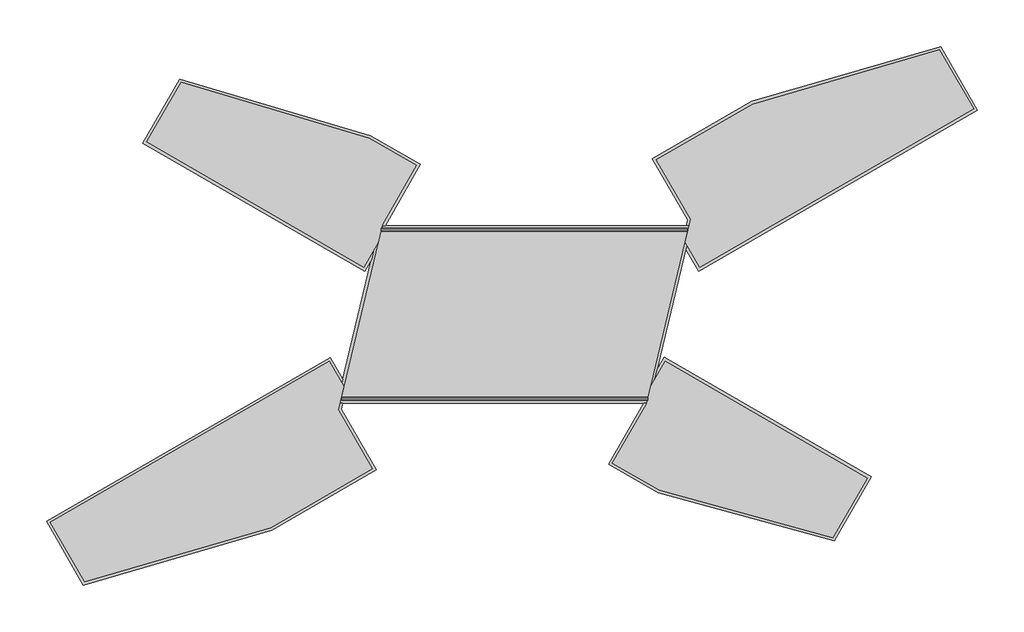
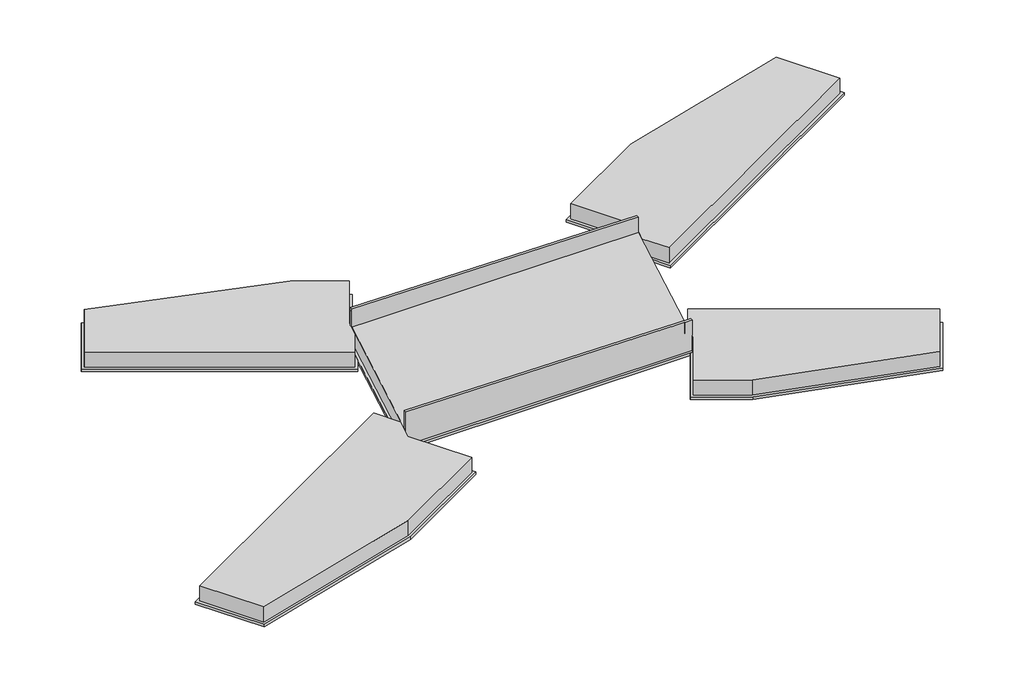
# One storey, incomplete: 12 proxies.
"""IFC4 building model written with IfcOpenShell, lengths in millimetres."""

from ifc_helpers import new_model, si_unit, frame, origin, origin_with_axes, place, context, project, spatial, polyline, outline, extrude, transform, mapped, element, save
from components import radier_radier_ac710929

model = new_model("IFC4")

# Units and contexts
model_context = context("Model", 3, world=origin())
ifc_project = project(units=[si_unit("LENGTHUNIT", "METRE", prefix="MILLI")], contexts=[model_context])

# Site, building, storey
site = spatial("IfcSite", under=ifc_project)
building = spatial("IfcBuilding", under=site)
storey = spatial("IfcBuildingStorey", under=building, Name="0- Fond de fouille", Elevation=0.0)

# Proxies
placement = place(None, origin())
element("IfcBuildingElementProxy", 1, Name="Béton de propreté S1 : béton de propreté S1", ObjectType="Béton de propreté S1 : béton de propreté S1", at=placement, inside=storey, context=model_context, shape_type="SweptSolid", body=[
    extrude(outline(polyline([(8289.3260852, 7434.0039891), (14893.3399844, 9353.2312488), (16173.3921672, 7136.0890223), (6430.5769223, 1511.1400355), (5991.5771135, 2271.5192034), (6025.366364, 2412.9956109), (5967.1847125, 2513.770406), (6107.1957499, 3100.0), (6004.3832383, 3100.0), (6051.3062222, 3296.4676664), (4819.2060896, 5430.5535014), (8289.3260852, 7434.0039891)])), origin_with_axes(), (0.0, 0.0, 1.0), 100.0),
])
element("IfcBuildingElementProxy", 2, Name="Béton de propreté S2 : béton de propreté S2", ObjectType="Béton de propreté S2 : béton de propreté S2", at=placement, inside=storey, context=model_context, shape_type="SweptSolid", body=[
    extrude(outline(polyline([(12461.9647699, -5682.7647927), (11173.4481291, -7914.5680679), (5029.7839823, -6241.5727011), (3284.8955633, -5234.1730843), (4517.0460687, -3100.0), (4626.4304641, -3100.0), (4767.2385783, -2510.4330263), (4907.5194147, -2267.4565523), (4988.9881286, -1926.3450805), (5230.6307882, -1507.8026558), (12461.9647699, -5682.7647927)])), origin_with_axes(), (0.0, 0.0, 1.0), 100.0),
])
element("IfcBuildingElementProxy", 3, Name="Béton de propreté S3 : béton de propreté S3", ObjectType="Béton de propreté S3 : béton de propreté S3", at=placement, inside=storey, context=model_context, shape_type="SweptSolid", body=[
    extrude(outline(polyline([(-16346.5977716, -7236.0881154), (-6430.5769223, -1511.1400355), (-5991.5771135, -2271.5192034), (-6025.366364, -2412.9956109), (-5967.1847125, -2513.770406), (-6107.1957499, -3100.0), (-6004.3832383, -3100.0), (-6056.7283401, -3319.1702047), (-4833.1031305, -5438.5768648), (-8480.8224212, -7544.5631134), (-15057.9552775, -9468.1093774), (-16346.5977716, -7236.0881154)])), origin_with_axes(), (0.0, 0.0, 1.0), 100.0),
])
element("IfcBuildingElementProxy", 4, Name="Béton de propreté S4 : béton de propreté S4", ObjectType="Béton de propreté S4 : béton de propreté S4", at=placement, inside=storey, context=model_context, shape_type="SweptSolid", body=[
    extrude(outline(polyline([(-4520.9449128, 3100.0), (-4626.4304641, 3100.0), (-4767.2385783, 2510.4330263), (-4907.5194147, 2267.4565523), (-4988.9881286, 1926.3450805), (-5230.6307882, 1507.8026558), (-12981.581583, 5982.762072), (-11692.1708843, 8216.1139195), (-5030.1198411, 6241.7666069), (-3287.819714, 5235.8613231), (-4520.9449128, 3100.0)])), origin_with_axes(), (0.0, 0.0, 1.0), 100.0),
])
element("IfcBuildingElementProxy", 5, Name="Béton de propreté radier : béton de propreté radier", ObjectType="Béton de propreté radier : béton de propreté radier", at=placement, inside=storey, context=model_context, shape_type="SweptSolid", body=[
    extrude(outline(polyline([(6107.1957499, 3100.0), (5967.1847125, 2513.770406), (6025.366364, 2412.9956109), (4907.5194147, -2267.4565523), (4767.2385783, -2510.4330263), (4626.4304641, -3100.0), (-6107.1957499, -3100.0), (-5967.1847125, -2513.770406), (-6025.366364, -2412.9956109), (-4907.5194147, 2267.4565523), (-4767.2385783, 2510.4330263), (-4626.4304641, 3100.0), (6107.1957499, 3100.0)])), origin_with_axes(), (0.0, 0.0, 1.0), 100.0),
])
element("IfcBuildingElementProxy", 6, Name="Assise drain P E : assise drain P E", ObjectType="Assise drain P E : assise drain P E", at=placement, inside=storey, context=model_context, shape_type="SweptSolid", body=[
    extrude(outline(polyline([(100.0, 4653.6345839), (1300.0, 4653.6345839), (1410.0, -6038.8666255), (100.0, -6038.8666255), (100.0, 4653.6345839)])), frame((0.0, -3000.0, 0.0), z_axis=(0.0, 1.0, 0.0), x_axis=(0.0, 0.0, 1.0)), (0.0, 0.0, 1.0), 100.0),
])
element("IfcBuildingElementProxy", 7, Name="Assise drain P W : assise drain P W", ObjectType="Assise drain P W : assise drain P W", at=placement, inside=storey, context=model_context, shape_type="SweptSolid", body=[
    extrude(outline(polyline([(1300.0, 6038.8666255), (1410.0, -4653.6345839), (1300.0, -4653.6345839), (100.0, -4653.6345839), (100.0, 6038.8666255), (1300.0, 6038.8666255)])), frame((0.0, 2900.0, 0.0), z_axis=(0.0, 1.0, 0.0), x_axis=(0.0, 0.0, 1.0)), (0.0, 0.0, 1.0), 100.0),
])
radier_radier_shape = radier_radier_ac710929(model_context)
element("IfcBuildingElementProxy", 8, Name="Radier : Radier", ObjectType="Radier : Radier", at=placement, inside=storey, context=model_context, shape_type="MappedRepresentation", body=[
    mapped(radier_radier_shape, transform((0.0, 0.0, 0.0), x_axis=(1.0, 0.0, 0.0), y_axis=(0.0, 1.0, 0.0), z_axis=(0.0, 0.0, 1.0))),
])
element("IfcBuildingElementProxy", 9, Name="Semelle S1 : semelle S1", ObjectType="Semelle S1 : semelle S1", at=placement, inside=storey, context=model_context, shape_type="SweptSolid", body=[
    extrude(outline(polyline([(4955.8084383, 5393.9502458), (8328.8493531, 7341.3527777), (14845.9453373, 9235.3203644), (16036.7898185, 7172.6922779), (6467.180178, 1647.7423842), (5967.1847125, 2513.770406), (6157.8225371, 3311.9755801), (4955.8084383, 5393.9502458)])), frame((0.0, 0.0, 100.0), z_axis=(0.0, 0.0, 1.0), x_axis=(1.0, 0.0, 0.0)), (0.0, 0.0, 1.0), 600.0),
])
element("IfcBuildingElementProxy", 10, Name="Semelle S2 : semelle S2", ObjectType="Semelle S2 : semelle S2", at=placement, inside=storey, context=model_context, shape_type="SweptSolid", body=[
    extrude(outline(polyline([(5267.2340438, -1644.4050046), (12325.3624212, -5719.3680483), (11125.373304, -7797.8353006), (5068.5613685, -6148.49086), (3421.497912, -5197.5698287), (4622.1370233, -3117.97674), (4767.2385783, -2510.4330263), (5267.2340438, -1644.4050046)])), frame((0.0, 0.0, 100.0), z_axis=(0.0, 0.0, 1.0), x_axis=(1.0, 0.0, 0.0)), (0.0, 0.0, 1.0), 600.0),
])
element("IfcBuildingElementProxy", 11, Name="Semelle S3 : semelle S3", ObjectType="Semelle S3 : semelle S3", at=placement, inside=storey, context=model_context, shape_type="SweptSolid", body=[
    extrude(outline(polyline([(-6467.180178, -1647.7423842), (-5967.1847125, -2513.770406), (-6163.2446549, -3334.6781184), (-4969.7054793, -5401.9736091), (-8520.4203685, -7451.9550177), (-15010.6293075, -9350.0795394), (-16209.9954228, -7272.691371), (-6467.180178, -1647.7423842)])), frame((0.0, 0.0, 100.0), z_axis=(0.0, 0.0, 1.0), x_axis=(1.0, 0.0, 0.0)), (0.0, 0.0, 1.0), 600.0),
])
element("IfcBuildingElementProxy", 12, Name="Semelle S4 : semelle S4", ObjectType="Semelle S4 : semelle S4", at=placement, inside=storey, context=model_context, shape_type="SweptSolid", body=[
    extrude(outline(polyline([(-5267.2340438, 1644.4050046), (-12844.9792342, 6019.3653276), (-11644.9901171, 8097.8325799), (-5069.8753041, 6149.2494519), (-3424.4220628, 5199.2580675), (-4619.3862255, 3129.4943968), (-4767.2385783, 2510.4330263), (-5267.2340438, 1644.4050046)])), frame((0.0, 0.0, 100.0), z_axis=(0.0, 0.0, 1.0), x_axis=(1.0, 0.0, 0.0)), (0.0, 0.0, 1.0), 600.0),
])

save(model, "model.ifc")
